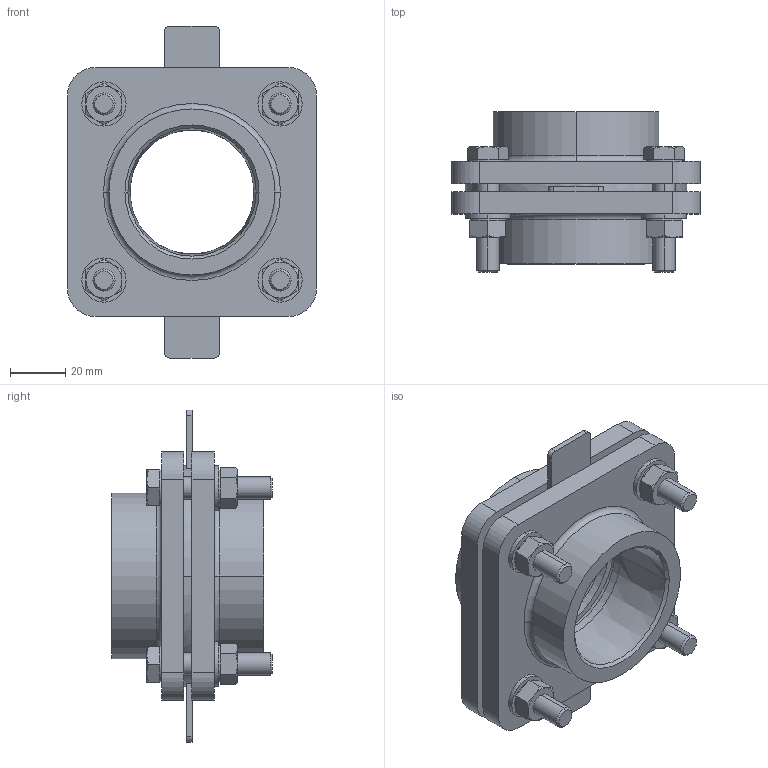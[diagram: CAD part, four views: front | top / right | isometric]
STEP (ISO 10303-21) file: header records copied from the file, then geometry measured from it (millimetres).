
FILE_DESCRIPTION (( 'STEP AP214' ), '1' );
FILE_NAME ('KP_F16-54FF.step', '2012-09-24T15:01:30', ( '' ), ( '' ), 'SwSTEP 2.0', 'SolidWorks 2012', '' );
FILE_SCHEMA (( 'AUTOMOTIVE_DESIGN' ));
Length unit declared in the file: millimetre
Products named in the file (1): KP_F16-54FF
Bounding box: 90 x 58 x 120 mm (x, y, z)
Volume: 166773.4 mm3; surface area: 64919.7 mm2
Topology: 15 solids, 15 shells, 336 faces, 736 edges, 436 vertices
Faces by surface type: plane 148, cylinder 96, cone 80, torus 12
Entity records: 13396 total; most frequent: CARTESIAN_POINT 2053, DIRECTION 1638, ORIENTED_EDGE 1472, EDGE_CURVE 736, AXIS2_PLACEMENT_3D 661, VERTEX_POINT 436, EDGE_LOOP 380, UNCERTAINTY_MEASURE_WITH_UNIT 353
